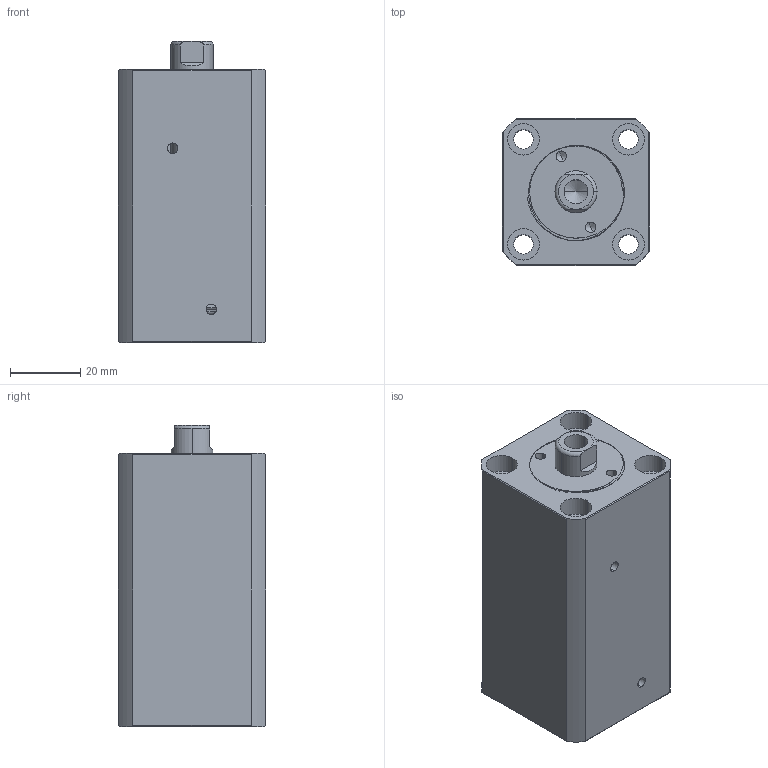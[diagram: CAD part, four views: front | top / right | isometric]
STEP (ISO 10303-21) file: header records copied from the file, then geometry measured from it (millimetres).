
FILE_DESCRIPTION (( 'STEP AP214' ), '1' );
FILE_NAME ('chtb-sdmb20x35n_asm.STEP', '2018-05-18T08:27:12', ( 'Windows' ), ( 'Microsoft' ), 'SwSTEP 2.0', 'SolidWorks 2015', '' );
FILE_SCHEMA (( 'AUTOMOTIVE_DESIGN' ));
Length unit declared in the file: millimetre
Products named in the file (4): QG_3; CHTB-SDMB20X35NHSG; CHTB-SDMB20X35NBT; chtb-sdmb20x35n_asm
Assembly tree (3 placements, depth 2):
  chtb-sdmb20x35n_asm
    CHTB-SDMB20X35NBT
    CHTB-SDMB20X35NHSG
    QG_3
Bounding box: 42 x 42 x 86 mm (x, y, z)
Volume: 117107.8 mm3; surface area: 36144.5 mm2
Topology: 3 solids, 3 shells, 201 faces, 535 edges, 354 vertices
Faces by surface type: cylinder 106, plane 43, torus 25, bspline 21, cone 6
Entity records: 11558 total; most frequent: CARTESIAN_POINT 6663, ORIENTED_EDGE 1058, DIRECTION 922, EDGE_CURVE 529, AXIS2_PLACEMENT_3D 388, VERTEX_POINT 354, EDGE_LOOP 239, CIRCLE 202
